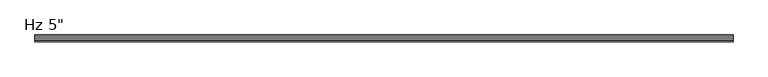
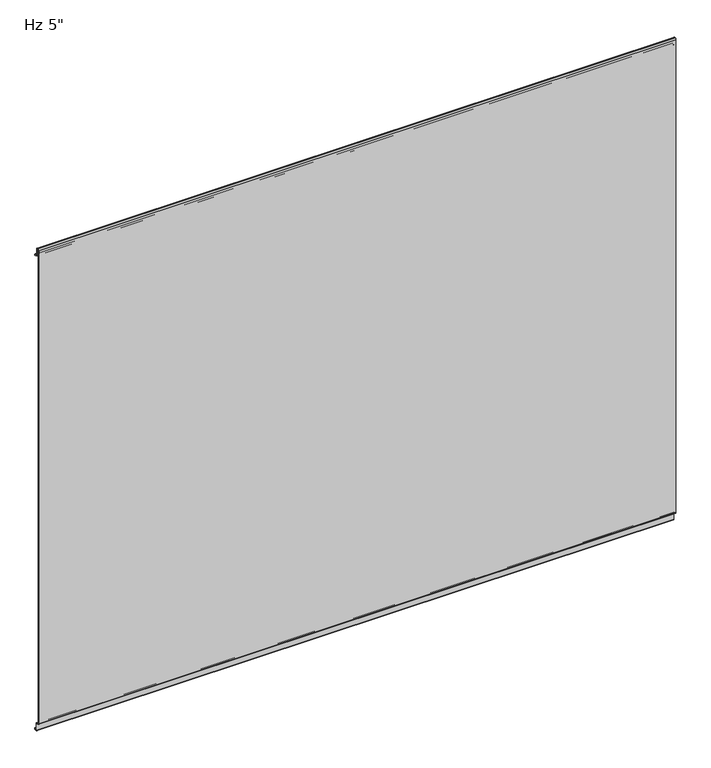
"""IFC4 building model written with IfcOpenShell, lengths in millimetres: plate geometry."""

from ifc_helpers import new_model, si_unit, frame, origin, place, context, project, spatial, polyline, circle_curve, source, transform, mapped, element, save
from ifc_brep_helpers import plane_surface, cylinder_surface, revolved_surface, advanced_brep


def plate_97a75773(model_context):
    return source(origin(), model_context, "Body", "AdvancedBrep", [
        advanced_brep(
        [(-730.0, -124.0223811, 3.8501063), (-730.0, -121.7308685, 3.8501063), (-730.0, -117.7535232, -0.1272391), (-730.0, -117.7535232, -15.7237514), (-730.0, -117.165666, -16.3116086), (-730.0, -114.0941346, -16.3116086), (-730.0, -113.5062635, -15.7237374), (-730.0, -113.5062635, -13.3687064), (-730.0, -112.5062599, -13.3687064), (-730.0, -112.5062599, -15.7237419), (-730.0, -114.0941364, -17.3116185), (-730.0, -117.1656851, -17.3116185), (-730.0, -118.7535616, -15.7237419), (-730.0, -118.7535616, -0.1273159), (-730.0, -121.7308302, 2.8499526), (-730.0, -124.022714, 2.8499526), (-730.0, -126.9999825, 5.8272211), (-730.0, -127.0, 1150.8100652), (-730.0, -124.0227315, 1153.7873337), (-730.0, -122.9806329, 1153.7873337), (-730.0, -120.0033644, 1150.8100652), (-730.0, -120.0033644, 1136.6216801), (-730.0, -118.4154878, 1135.0338036), (-730.0, -114.0950697, 1135.0338036), (-730.0, -112.5066023, 1133.3929042), (-730.0, -112.5066023, 1131.0482432), (-730.0, -113.5060472, 1131.0482432), (-730.0, -113.5060472, 1133.4253599), (-730.0, -114.0950842, 1134.0338971), (-730.0, -118.4153166, 1134.0338971), (-730.0, -121.0030166, 1136.6215971), (-730.0, -121.0030166, 1150.8107568), (-730.0, -122.980978, 1152.7887182), (-730.0, -124.02341, 1152.7887182), (-730.0, -125.9992912, 1150.812837), (-730.0, -125.9992912, 5.8270163), (730.0, -124.0223811, 3.8501063), (730.0, -125.9992912, 5.8270163), (730.0, -125.9992912, 1150.812837), (730.0, -124.02341, 1152.7887182), (730.0, -122.980978, 1152.7887182), (730.0, -121.0030166, 1150.8107568), (730.0, -121.0030166, 1136.6215971), (730.0, -118.4153166, 1134.0338971), (730.0, -114.0950842, 1134.0338971), (730.0, -113.5060472, 1133.4253599), (730.0, -113.5060472, 1131.0482432), (730.0, -112.5066023, 1131.0482432), (730.0, -112.5066023, 1133.3929042), (730.0, -114.0950697, 1135.0338036), (730.0, -118.4154878, 1135.0338036), (730.0, -120.0033644, 1136.6216801), (730.0, -120.0033644, 1150.8100652), (730.0, -122.9806329, 1153.7873337), (730.0, -124.0227315, 1153.7873337), (730.0, -127.0, 1150.8100652), (730.0, -127.0, 5.8272211), (730.0, -124.022714, 2.8499526), (730.0, -121.7308302, 2.8499526), (730.0, -118.7535616, -0.1273159), (730.0, -118.7535616, -15.7237419), (730.0, -117.1656851, -17.3116185), (730.0, -114.0941364, -17.3116185), (730.0, -112.5062599, -15.7237419), (730.0, -112.5062599, -13.3687064), (730.0, -113.5062635, -13.3687064), (730.0, -113.5062635, -15.7237374), (730.0, -114.0941346, -16.3116086), (730.0, -117.165666, -16.3116086), (730.0, -117.7535232, -15.7237514), (730.0, -117.7535232, -0.1272391), (730.0, -121.7308685, 3.8501063)],
        [
            (0, 1),
            (1, 2, circle_curve(frame((-730.0, -121.7308685, -0.1272391), z_axis=(-1.0, 0.0, 0.0), x_axis=(0.0, 0.0, -1.0)), 3.9773454)),
            (2, 3),
            (3, 4, circle_curve(frame((-730.0, -117.165666, -15.7237514), z_axis=(1.0, 0.0, 0.0), x_axis=(0.0, 0.0, -1.0)), 0.5878572)),
            (4, 5),
            (5, 6, circle_curve(frame((-730.0, -114.0941346, -15.7237374), z_axis=(1.0, 0.0, 0.0), x_axis=(0.0, 0.0, -1.0)), 0.5878711)),
            (6, 7),
            (7, 8),
            (8, 9),
            (9, 10, circle_curve(frame((-730.0, -114.0941364, -15.7237419), z_axis=(-1.0, 0.0, 0.0), x_axis=(0.0, 0.0, -1.0)), 1.5878765)),
            (10, 11),
            (11, 12, circle_curve(frame((-730.0, -117.1656851, -15.7237419), z_axis=(-1.0, 0.0, 0.0), x_axis=(0.0, 0.0, -1.0)), 1.5878765)),
            (12, 13),
            (13, 14, circle_curve(frame((-730.0, -121.7308302, -0.1273159), z_axis=(1.0, 0.0, 0.0), x_axis=(0.0, 0.0, -1.0)), 2.9772685)),
            (14, 15),
            (15, 16, circle_curve(frame((-730.0, -124.022714, 5.8272211), z_axis=(-1.0, 0.0, 0.0), x_axis=(0.0, 0.0, -1.0)), 2.9772685)),
            (16, 17),
            (17, 18, circle_curve(frame((-730.0, -124.0227315, 1150.8100652), z_axis=(-1.0, 0.0, 0.0), x_axis=(0.0, 0.0, -1.0)), 2.9772685)),
            (18, 19),
            (19, 20, circle_curve(frame((-730.0, -122.9806329, 1150.8100652), z_axis=(-1.0, 0.0, 0.0), x_axis=(0.0, 0.0, -1.0)), 2.9772685)),
            (20, 21),
            (21, 22, circle_curve(frame((-730.0, -118.4154878, 1136.6216801), z_axis=(1.0, 0.0, 0.0), x_axis=(0.0, 0.0, -1.0)), 1.5878765)),
            (22, 23),
            (23, 24, circle_curve(frame((-730.0, -114.0950697, 1133.4444985), z_axis=(-1.0, 0.0, 0.0), x_axis=(0.0, 0.0, -1.0)), 1.5893051)),
            (24, 25),
            (25, 26),
            (26, 27),
            (27, 28, circle_curve(frame((-730.0, -114.0950842, 1133.4445477), z_axis=(1.0, 0.0, 0.0), x_axis=(0.0, 0.0, -1.0)), 0.5893495)),
            (28, 29),
            (29, 30, circle_curve(frame((-730.0, -118.4153166, 1136.6215971), z_axis=(-1.0, 0.0, 0.0), x_axis=(0.0, 0.0, -1.0)), 2.5877)),
            (30, 31),
            (31, 32, circle_curve(frame((-730.0, -122.980978, 1150.8107568), z_axis=(1.0, 0.0, 0.0), x_axis=(0.0, 0.0, -1.0)), 1.9779614)),
            (32, 33),
            (33, 34, circle_curve(frame((-730.0, -124.02341, 1150.812837), z_axis=(1.0, 0.0, 0.0), x_axis=(0.0, 0.0, -1.0)), 1.9758812)),
            (34, 35),
            (35, 0, circle_curve(frame((-730.0, -124.0223811, 5.8270163), z_axis=(1.0, 0.0, 0.0), x_axis=(0.0, 0.0, -1.0)), 1.9769101)),
            (36, 37, circle_curve(frame((730.0, -124.0223811, 5.8270163), z_axis=(-1.0, 0.0, 0.0), x_axis=(0.0, 0.0, -1.0)), 1.9769101)),
            (37, 38),
            (38, 39, circle_curve(frame((730.0, -124.02341, 1150.812837), z_axis=(-1.0, 0.0, 0.0), x_axis=(0.0, 0.0, -1.0)), 1.9758812)),
            (39, 40),
            (40, 41, circle_curve(frame((730.0, -122.980978, 1150.8107568), z_axis=(-1.0, 0.0, 0.0), x_axis=(0.0, 0.0, -1.0)), 1.9779614)),
            (41, 42),
            (42, 43, circle_curve(frame((730.0, -118.4153166, 1136.6215971), z_axis=(1.0, 0.0, 0.0), x_axis=(0.0, 0.0, -1.0)), 2.5877)),
            (43, 44),
            (44, 45, circle_curve(frame((730.0, -114.0950842, 1133.4445477), z_axis=(-1.0, 0.0, 0.0), x_axis=(0.0, 0.0, -1.0)), 0.5893495)),
            (45, 46),
            (46, 47),
            (47, 48),
            (48, 49, circle_curve(frame((730.0, -114.0950697, 1133.4444985), z_axis=(1.0, 0.0, 0.0), x_axis=(0.0, 0.0, -1.0)), 1.5893051)),
            (49, 50),
            (50, 51, circle_curve(frame((730.0, -118.4154878, 1136.6216801), z_axis=(-1.0, 0.0, 0.0), x_axis=(0.0, 0.0, -1.0)), 1.5878765)),
            (51, 52),
            (52, 53, circle_curve(frame((730.0, -122.9806329, 1150.8100652), z_axis=(1.0, 0.0, 0.0), x_axis=(0.0, 0.0, -1.0)), 2.9772685)),
            (53, 54),
            (54, 55, circle_curve(frame((730.0, -124.0227315, 1150.8100652), z_axis=(1.0, 0.0, 0.0), x_axis=(0.0, 0.0, -1.0)), 2.9772685)),
            (55, 56),
            (56, 57, circle_curve(frame((730.0, -124.022714, 5.8272211), z_axis=(1.0, 0.0, 0.0), x_axis=(0.0, 0.0, -1.0)), 2.9772685)),
            (57, 58),
            (58, 59, circle_curve(frame((730.0, -121.7308302, -0.1273159), z_axis=(-1.0, 0.0, 0.0), x_axis=(0.0, 0.0, -1.0)), 2.9772685)),
            (59, 60),
            (60, 61, circle_curve(frame((730.0, -117.1656851, -15.7237419), z_axis=(1.0, 0.0, 0.0), x_axis=(0.0, 0.0, -1.0)), 1.5878765)),
            (61, 62),
            (62, 63, circle_curve(frame((730.0, -114.0941364, -15.7237419), z_axis=(1.0, 0.0, 0.0), x_axis=(0.0, 0.0, -1.0)), 1.5878765)),
            (63, 64),
            (64, 65),
            (65, 66),
            (66, 67, circle_curve(frame((730.0, -114.0941346, -15.7237374), z_axis=(-1.0, 0.0, 0.0), x_axis=(0.0, 0.0, -1.0)), 0.5878711)),
            (67, 68),
            (68, 69, circle_curve(frame((730.0, -117.165666, -15.7237514), z_axis=(-1.0, 0.0, 0.0), x_axis=(0.0, 0.0, -1.0)), 0.5878572)),
            (69, 70),
            (70, 71, circle_curve(frame((730.0, -121.7308685, -0.1272391), z_axis=(1.0, 0.0, 0.0), x_axis=(0.0, 0.0, -1.0)), 3.9773454)),
            (71, 36),
            (35, 37),
            (36, 0),
            (34, 38),
            (33, 39),
            (32, 40),
            (31, 41),
            (30, 42),
            (29, 43),
            (28, 44),
            (27, 45),
            (26, 46),
            (25, 47),
            (24, 48),
            (23, 49),
            (22, 50),
            (21, 51),
            (20, 52),
            (19, 53),
            (18, 54),
            (17, 55),
            (16, 56),
            (15, 57),
            (14, 58),
            (13, 59),
            (12, 60),
            (11, 61),
            (10, 62),
            (9, 63),
            (8, 64),
            (7, 65),
            (6, 66),
            (5, 67),
            (4, 68),
            (3, 69),
            (2, 70),
            (1, 71),
        ],
        [
            plane_surface(frame((-730.0, -127.0, 576.2625), z_axis=(-1.0, 0.0, 0.0), x_axis=(0.0, -1.0, 0.0))),
            plane_surface(frame((730.0, -127.0, 576.2625), z_axis=(1.0, 0.0, 0.0), x_axis=(0.0, -1.0, 0.0))),
            revolved_surface(polyline([(730.0, -124.0223811, 3.8501062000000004), (-730.0, -124.0223811, 3.8501062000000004)]), (-730.0, -124.0223811, 5.8270163), (1.0, 0.0, 0.0)),
            plane_surface(frame((-730.0, -125.9992912, 5.8270163), z_axis=(0.0, 1.0, 0.0), x_axis=(1.0, 0.0, 0.0))),
            revolved_surface(polyline([(730.0, -124.02341, 1148.8369558), (-730.0, -124.02341, 1148.8369558)]), (-730.0, -124.02341, 1150.812837), (1.0, 0.0, 0.0)),
            plane_surface(frame((-730.0, -124.02341, 1152.7887182), z_axis=(0.0, 0.0, -1.0), x_axis=(1.0, 0.0, 0.0))),
            revolved_surface(polyline([(730.0, -122.980978, 1148.8327954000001), (-730.0, -122.980978, 1148.8327954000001)]), (-730.0, -122.980978, 1150.8107568), (1.0, 0.0, 0.0)),
            plane_surface(frame((-730.0, -121.0030166, 1150.8107568), z_axis=(0.0, -1.0, 0.0), x_axis=(1.0, 0.0, 0.0))),
            cylinder_surface(frame((-730.0, -118.4153166, 1136.6215971), z_axis=(-1.0, 0.0, 0.0), x_axis=(0.0, 0.0, -1.0)), 2.5877),
            plane_surface(frame((-730.0, -118.4153166, 1134.0338971), z_axis=(0.0, 0.0, -1.0), x_axis=(1.0, 0.0, 0.0))),
            revolved_surface(polyline([(730.0, -114.0950842, 1132.8551982), (-730.0, -114.0950842, 1132.8551982)]), (-730.0, -114.0950842, 1133.4445477), (1.0, 0.0, 0.0)),
            plane_surface(frame((-730.0, -113.5060472, 1133.4253599), z_axis=(0.0, -1.0, 0.0), x_axis=(1.0, 0.0, 0.0))),
            plane_surface(frame((-730.0, -113.5060472, 1131.0482432), z_axis=(0.0, 0.0, -1.0), x_axis=(1.0, 0.0, 0.0))),
            plane_surface(frame((-730.0, -112.5066023, 1131.0482432), z_axis=(0.0, 1.0, 0.0), x_axis=(1.0, 0.0, 0.0))),
            cylinder_surface(frame((-730.0, -114.0950697, 1133.4444985), z_axis=(-1.0, 0.0, 0.0), x_axis=(0.0, 0.0, -1.0)), 1.5893051),
            plane_surface(frame((-730.0, -114.0950697, 1135.0338036), z_axis=(0.0, 0.0, 1.0), x_axis=(1.0, 0.0, 0.0))),
            revolved_surface(polyline([(730.0, -118.4154878, 1135.0338036), (-730.0, -118.4154878, 1135.0338036)]), (-730.0, -118.4154878, 1136.6216801), (1.0, 0.0, 0.0)),
            plane_surface(frame((-730.0, -120.0033644, 1136.6216801), z_axis=(0.0, 1.0, 0.0), x_axis=(1.0, 0.0, 0.0))),
            cylinder_surface(frame((-730.0, -122.9806329, 1150.8100652), z_axis=(-1.0, 0.0, 0.0), x_axis=(0.0, 0.0, -1.0)), 2.9772685),
            plane_surface(frame((-730.0, -122.9806329, 1153.7873337), z_axis=(0.0, 0.0, 1.0), x_axis=(1.0, 0.0, 0.0))),
            cylinder_surface(frame((-730.0, -124.0227315, 1150.8100652), z_axis=(-1.0, 0.0, 0.0), x_axis=(0.0, 0.0, -1.0)), 2.9772685),
            plane_surface(frame((-730.0, -127.0, 1150.8100652), z_axis=(0.0, -1.0, 0.0), x_axis=(1.0, 0.0, 0.0))),
            cylinder_surface(frame((-730.0, -124.022714, 5.8272211), z_axis=(-1.0, 0.0, 0.0), x_axis=(0.0, 0.0, -1.0)), 2.9772685),
            plane_surface(frame((-730.0, -124.022714, 2.8499526), z_axis=(0.0, 0.0, -1.0), x_axis=(1.0, 0.0, 0.0))),
            revolved_surface(polyline([(730.0, -121.7308302, -3.1045844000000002), (-730.0, -121.7308302, -3.1045844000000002)]), (-730.0, -121.7308302, -0.1273159), (1.0, 0.0, 0.0)),
            plane_surface(frame((-730.0, -118.7535616, -0.1273159), z_axis=(0.0, -1.0, 0.0), x_axis=(1.0, 0.0, 0.0))),
            cylinder_surface(frame((-730.0, -117.1656851, -15.7237419), z_axis=(-1.0, 0.0, 0.0), x_axis=(0.0, 0.0, -1.0)), 1.5878765),
            plane_surface(frame((-730.0, -117.1656851, -17.3116185), z_axis=(0.0, 0.0, -1.0), x_axis=(1.0, 0.0, 0.0))),
            cylinder_surface(frame((-730.0, -114.0941364, -15.7237419), z_axis=(-1.0, 0.0, 0.0), x_axis=(0.0, 0.0, -1.0)), 1.5878765),
            plane_surface(frame((-730.0, -112.5062599, -15.7237419), z_axis=(0.0, 1.0, 0.0), x_axis=(1.0, 0.0, 0.0))),
            plane_surface(frame((-730.0, -112.5062599, -13.3687064), z_axis=(0.0, 0.0, 1.0), x_axis=(1.0, 0.0, 0.0))),
            plane_surface(frame((-730.0, -113.5062635, -13.3687064), z_axis=(0.0, -1.0, 0.0), x_axis=(1.0, 0.0, 0.0))),
            revolved_surface(polyline([(730.0, -114.0941346, -16.3116085), (-730.0, -114.0941346, -16.3116085)]), (-730.0, -114.0941346, -15.7237374), (1.0, 0.0, 0.0)),
            plane_surface(frame((-730.0, -114.0941346, -16.3116086), z_axis=(0.0, 0.0, 1.0), x_axis=(1.0, 0.0, 0.0))),
            revolved_surface(polyline([(730.0, -117.165666, -16.3116086), (-730.0, -117.165666, -16.3116086)]), (-730.0, -117.165666, -15.7237514), (1.0, 0.0, 0.0)),
            plane_surface(frame((-730.0, -117.7535232, -15.7237514), z_axis=(0.0, 1.0, 0.0), x_axis=(1.0, 0.0, 0.0))),
            cylinder_surface(frame((-730.0, -121.7308685, -0.1272391), z_axis=(-1.0, 0.0, 0.0), x_axis=(0.0, 0.0, -1.0)), 3.9773454),
            plane_surface(frame((-730.0, -121.7308685, 3.8501063), z_axis=(0.0, 0.0, 1.0), x_axis=(1.0, 0.0, 0.0))),
        ],
        [
            (0, [[1, 2, 3, 4, 5, 6, 7, 8, 9, 10, 11, 12, 13, 14, 15, 16, 17, 18, 19, 20, 21, 22, 23, 24, 25, 26, 27, 28, 29, 30, 31, 32, 33, 34, 35, 36]]),
            (1, [[37, 38, 39, 40, 41, 42, 43, 44, 45, 46, 47, 48, 49, 50, 51, 52, 53, 54, 55, 56, 57, 58, 59, 60, 61, 62, 63, 64, 65, 66, 67, 68, 69, 70, 71, 72]]),
            (2, [[73, -37, 74, -36]]),
            (3, [[75, -38, -73, -35]]),
            (4, [[76, -39, -75, -34]]),
            (5, [[77, -40, -76, -33]]),
            (6, [[78, -41, -77, -32]]),
            (7, [[79, -42, -78, -31]]),
            (8, [[80, -43, -79, -30]]),
            (9, [[81, -44, -80, -29]]),
            (10, [[82, -45, -81, -28]]),
            (11, [[83, -46, -82, -27]]),
            (12, [[84, -47, -83, -26]]),
            (13, [[85, -48, -84, -25]]),
            (14, [[86, -49, -85, -24]]),
            (15, [[87, -50, -86, -23]]),
            (16, [[88, -51, -87, -22]]),
            (17, [[89, -52, -88, -21]]),
            (18, [[90, -53, -89, -20]]),
            (19, [[91, -54, -90, -19]]),
            (20, [[92, -55, -91, -18]]),
            (21, [[93, -56, -92, -17]]),
            (22, [[94, -57, -93, -16]]),
            (23, [[95, -58, -94, -15]]),
            (24, [[96, -59, -95, -14]]),
            (25, [[97, -60, -96, -13]]),
            (26, [[98, -61, -97, -12]]),
            (27, [[99, -62, -98, -11]]),
            (28, [[100, -63, -99, -10]]),
            (29, [[101, -64, -100, -9]]),
            (30, [[102, -65, -101, -8]]),
            (31, [[103, -66, -102, -7]]),
            (32, [[104, -67, -103, -6]]),
            (33, [[105, -68, -104, -5]]),
            (34, [[106, -69, -105, -4]]),
            (35, [[107, -70, -106, -3]]),
            (36, [[108, -71, -107, -2]]),
            (37, [[-74, -72, -108, -1]]),
        ],
    ),
    ])


if __name__ == "__main__":
    model = new_model("IFC4")
    model_context = context("Model", 3, world=origin())
    ifc_project = project(units=[si_unit("LENGTHUNIT", "METRE", prefix="MILLI")], contexts=[model_context])
    site = spatial("IfcSite", under=ifc_project)
    building = spatial("IfcBuilding", under=site)
    placement = place(None, origin())
    plate_shape = plate_97a75773(model_context)
    element("IfcPlate", 1, ObjectType="KIP-SLI-FLI-R19-CP-Hz-FL_SL : Hz 5\"", at=placement, inside=building, context=model_context, shape_type="MappedRepresentation", body=[
        mapped(plate_shape, transform((0.0, 0.0, 0.0), x_axis=(1.0, 0.0, 0.0), y_axis=(0.0, 1.0, 0.0), z_axis=(0.0, 0.0, 1.0))),
    ])
    save(model, "model.ifc")
